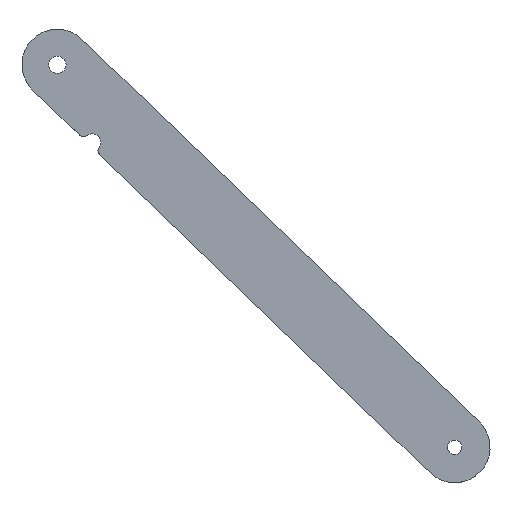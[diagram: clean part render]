
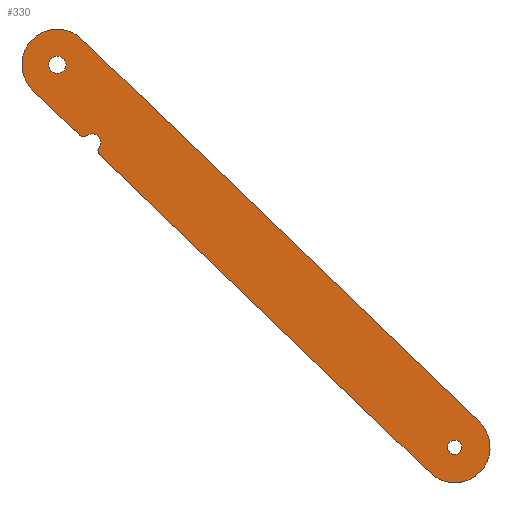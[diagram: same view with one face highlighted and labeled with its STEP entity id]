
A CAD part, top view. The second image highlights one B-rep face of the part: STEP entity #330.
In plain terms, the highlighted planar face has unit normal (0, 0, 1).
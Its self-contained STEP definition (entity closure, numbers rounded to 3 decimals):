
#71=CARTESIAN_POINT('',(123.482,-535.045,1.5));
#72=DIRECTION('',(0.,0.,-1.));
#73=DIRECTION('',(1.,0.,0.));
#74=AXIS2_PLACEMENT_3D('',#71,#72,#73);
#76=CARTESIAN_POINT('',(123.482,-535.045,1.5));
#77=DIRECTION('',(0.,0.,-1.));
#78=DIRECTION('',(-1.,0.,0.));
#79=AXIS2_PLACEMENT_3D('',#76,#77,#78);
#81=CARTESIAN_POINT('',(263.527,-669.952,1.5));
#82=DIRECTION('',(0.,0.,-1.));
#83=DIRECTION('',(1.,0.,0.));
#84=AXIS2_PLACEMENT_3D('',#81,#82,#83);
#86=CARTESIAN_POINT('',(263.527,-669.952,1.5));
#87=DIRECTION('',(0.,0.,-1.));
#88=DIRECTION('',(-1.,0.,0.));
#89=AXIS2_PLACEMENT_3D('',#86,#87,#88);
#91=DIRECTION('',(0.72,-0.694,0.));
#92=VECTOR('',#91,22.688);
#93=CARTESIAN_POINT('',(114.81,-544.047,1.5));
#94=LINE('',#93,#92);
#95=CARTESIAN_POINT('',(123.482,-535.045,1.5));
#96=DIRECTION('',(0.,0.,1.));
#97=DIRECTION('',(0.694,0.72,0.));
#98=AXIS2_PLACEMENT_3D('',#95,#96,#97);
#100=DIRECTION('',(-0.72,0.694,0.));
#101=VECTOR('',#100,194.454);
#102=CARTESIAN_POINT('',(272.199,-660.95,1.5));
#103=LINE('',#102,#101);
#104=CARTESIAN_POINT('',(263.527,-669.952,1.5));
#105=DIRECTION('',(0.,0.,1.));
#106=DIRECTION('',(-0.694,-0.72,0.));
#107=AXIS2_PLACEMENT_3D('',#104,#105,#106);
#109=DIRECTION('',(0.72,-0.694,0.));
#110=VECTOR('',#109,161.694);
#111=CARTESIAN_POINT('',(138.404,-566.776,1.5));
#112=LINE('',#111,#110);
#113=CARTESIAN_POINT('',(139.792,-565.335,1.5));
#114=DIRECTION('',(0.,0.,1.));
#115=DIRECTION('',(-0.815,0.58,0.));
#116=AXIS2_PLACEMENT_3D('',#113,#114,#115);
#118=CARTESIAN_POINT('',(135.718,-562.436,1.5));
#119=DIRECTION('',(0.,0.,1.));
#120=DIRECTION('',(0.815,-0.58,0.));
#121=AXIS2_PLACEMENT_3D('',#118,#119,#120);
#123=CARTESIAN_POINT('',(123.482,-535.045,1.5));
#124=DIRECTION('',(0.,0.,1.));
#125=DIRECTION('',(0.362,-0.932,0.));
#126=AXIS2_PLACEMENT_3D('',#123,#124,#125);
#128=CARTESIAN_POINT('',(132.538,-558.347,1.5));
#129=DIRECTION('',(0.,0.,1.));
#130=DIRECTION('',(-0.694,-0.72,0.));
#131=AXIS2_PLACEMENT_3D('',#128,#129,#130);
#193=CARTESIAN_POINT('',(126.532,-535.045,1.5));
#194=CARTESIAN_POINT('',(120.432,-535.045,1.5));
#195=VERTEX_POINT('',#193);
#196=VERTEX_POINT('',#194);
#197=CARTESIAN_POINT('',(266.077,-669.952,1.5));
#198=CARTESIAN_POINT('',(260.977,-669.952,1.5));
#199=VERTEX_POINT('',#197);
#200=VERTEX_POINT('',#198);
#201=CARTESIAN_POINT('',(132.155,-526.042,1.5));
#202=CARTESIAN_POINT('',(114.81,-544.047,1.5));
#203=VERTEX_POINT('',#201);
#204=VERTEX_POINT('',#202);
#205=CARTESIAN_POINT('',(254.855,-678.954,1.5));
#206=CARTESIAN_POINT('',(272.199,-660.95,1.5));
#207=VERTEX_POINT('',#205);
#208=VERTEX_POINT('',#206);
#213=CARTESIAN_POINT('',(131.15,-559.787,1.5));
#214=VERTEX_POINT('',#213);
#215=CARTESIAN_POINT('',(138.404,-566.776,1.5));
#216=VERTEX_POINT('',#215);
#217=CARTESIAN_POINT('',(134.495,-559.697,1.5));
#219=VERTEX_POINT('',#217);
#221=CARTESIAN_POINT('',(133.262,-560.211,1.5));
#222=VERTEX_POINT('',#221);
#227=CARTESIAN_POINT('',(138.162,-564.176,1.5));
#228=VERTEX_POINT('',#227);
#295=CARTESIAN_POINT('',(0.,0.,1.5));
#296=DIRECTION('',(0.,0.,1.));
#297=DIRECTION('',(1.,0.,0.));
#298=AXIS2_PLACEMENT_3D('',#295,#296,#297);
#299=PLANE('',#298);
#301=ORIENTED_EDGE('',*,*,#300,.F.);
#303=ORIENTED_EDGE('',*,*,#302,.F.);
#305=ORIENTED_EDGE('',*,*,#304,.F.);
#307=ORIENTED_EDGE('',*,*,#306,.F.);
#309=ORIENTED_EDGE('',*,*,#308,.F.);
#311=ORIENTED_EDGE('',*,*,#310,.F.);
#313=ORIENTED_EDGE('',*,*,#312,.T.);
#315=ORIENTED_EDGE('',*,*,#314,.F.);
#317=ORIENTED_EDGE('',*,*,#316,.F.);
#318=EDGE_LOOP('',(#301,#303,#305,#307,#309,#311,#313,#315,#317));
#319=FACE_OUTER_BOUND('',#318,.F.);
#321=ORIENTED_EDGE('',*,*,#320,.F.);
#323=ORIENTED_EDGE('',*,*,#322,.F.);
#324=EDGE_LOOP('',(#321,#323));
#325=FACE_BOUND('',#324,.F.);
#326=ORIENTED_EDGE('',*,*,#275,.F.);
#327=ORIENTED_EDGE('',*,*,#289,.F.);
#328=EDGE_LOOP('',(#326,#327));
#329=FACE_BOUND('',#328,.F.);
#330=ADVANCED_FACE('',(#319,#325,#329),#299,.T.);
#75=CIRCLE('',#74,3.05);
#80=CIRCLE('',#79,3.05);
#85=CIRCLE('',#84,2.55);
#90=CIRCLE('',#89,2.55);
#99=CIRCLE('',#98,12.5);
#108=CIRCLE('',#107,12.5);
#117=CIRCLE('',#116,2.);
#122=CIRCLE('',#121,3.);
#127=CIRCLE('',#126,27.);
#132=CIRCLE('',#131,2.);
#275=EDGE_CURVE('',#195,#196,#75,.T.);
#289=EDGE_CURVE('',#196,#195,#80,.T.);
#300=EDGE_CURVE('',#204,#214,#94,.T.);
#302=EDGE_CURVE('',#203,#204,#99,.T.);
#304=EDGE_CURVE('',#208,#203,#103,.T.);
#306=EDGE_CURVE('',#207,#208,#108,.T.);
#308=EDGE_CURVE('',#216,#207,#112,.T.);
#310=EDGE_CURVE('',#228,#216,#117,.T.);
#312=EDGE_CURVE('',#228,#219,#122,.T.);
#314=EDGE_CURVE('',#222,#219,#127,.T.);
#316=EDGE_CURVE('',#214,#222,#132,.T.);
#320=EDGE_CURVE('',#199,#200,#85,.T.);
#322=EDGE_CURVE('',#200,#199,#90,.T.);
